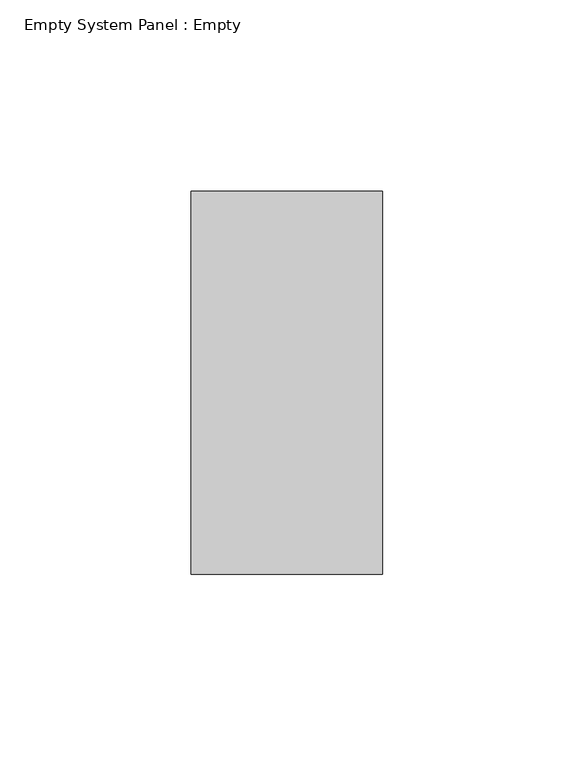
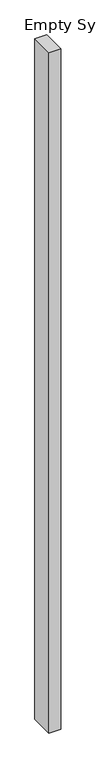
"""IFC4 building model written with IfcOpenShell, lengths in millimetres: plate geometry, Empty System Panel : Empty."""

from ifc_helpers import new_model, si_unit, origin, origin_with_axes, place, context, project, spatial, polyline, outline, extrude, source, transform, mapped, element, save


def empty_system_panel_empty_86f8aeda(model_context):
    return source(origin(), model_context, "Body", "SweptSolid", [
        extrude(outline(polyline([(25.0, -50.0), (-25.0, -50.0), (-25.0, 50.0), (25.0, 50.0), (25.0, -50.0)])), origin_with_axes(), (0.0, 0.0, 1.0), 3000.0),
    ])


if __name__ == "__main__":
    model = new_model("IFC4")
    model_context = context("Model", 3, world=origin())
    ifc_project = project(units=[si_unit("LENGTHUNIT", "METRE", prefix="MILLI")], contexts=[model_context])
    site = spatial("IfcSite", under=ifc_project)
    building = spatial("IfcBuilding", under=site)
    placement = place(None, origin())
    empty_system_panel_empty_shape = empty_system_panel_empty_86f8aeda(model_context)
    element("IfcPlate", 1, ObjectType="Empty System Panel : Empty", at=placement, inside=building, context=model_context, shape_type="MappedRepresentation", body=[
        mapped(empty_system_panel_empty_shape, transform((0.0, 0.0, 0.0), x_axis=(1.0, 0.0, 0.0), y_axis=(0.0, 1.0, 0.0), z_axis=(0.0, 0.0, 1.0))),
    ])
    save(model, "model.ifc")
